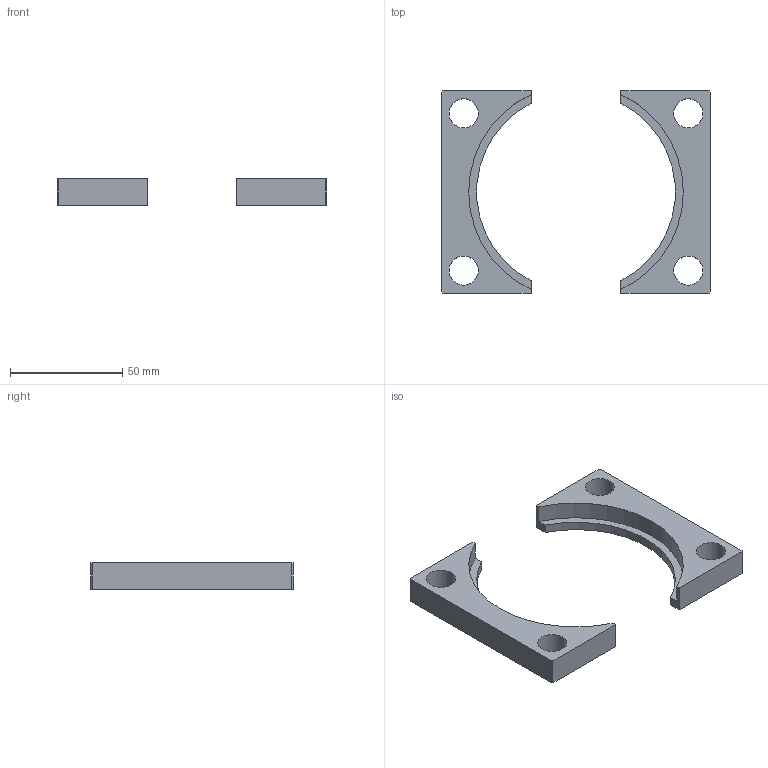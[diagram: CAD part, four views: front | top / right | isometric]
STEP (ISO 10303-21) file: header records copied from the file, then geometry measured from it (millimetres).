
FILE_DESCRIPTION(/* description */ (''),/* implementation_level */ '2;1');
FILE_NAME(/* name */ 'C:\Users\Jefferson\Desktop\Biblioteca Pro Nitro 2024\Flanges\PNB-32-XXX\PNB-32-095.stp',/* time_stamp */ '2024-01-10T17:14:37-03:00',/* author */ ('Jefferson'),/* organization */ (''),/* preprocessor_version */ 'ST-DEVELOPER v18.1',/* originating_system */ 'Autodesk Inventor 2021',/* authorisation */ '');
FILE_SCHEMA (('AUTOMOTIVE_DESIGN { 1 0 10303 214 3 1 1 }'));
Length unit declared in the file: millimetre
Products named in the file (1): PNB-32-095
Bounding box: 120 x 90 x 12 mm (x, y, z)
Volume: 41410 mm3; surface area: 16573 mm2
Topology: 2 solids, 2 shells, 198 faces, 537 edges, 358 vertices
Faces by surface type: bspline 96, plane 94, cylinder 8
Full cylindrical faces by diameter (mm): 13 x4
Entity records: 6749 total; most frequent: CARTESIAN_POINT 2342, ORIENTED_EDGE 1074, DIRECTION 567, EDGE_CURVE 537, VERTEX_POINT 358, LINE 329, VECTOR 329, EDGE_LOOP 221
